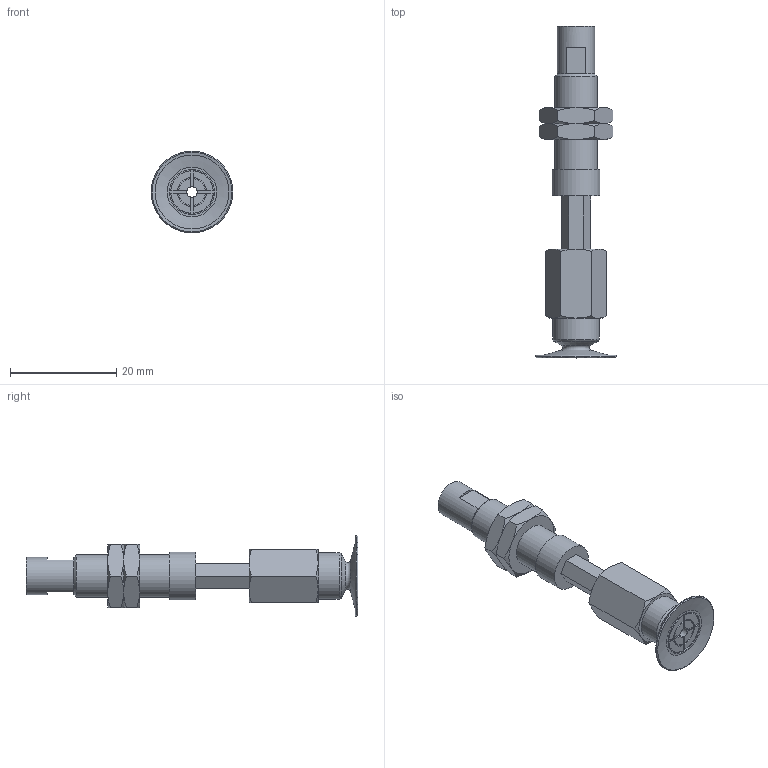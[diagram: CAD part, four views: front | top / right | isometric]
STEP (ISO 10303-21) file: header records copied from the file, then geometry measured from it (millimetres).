
FILE_DESCRIPTION(('STEP AP203'),'1');
FILE_NAME('.stp','2025-08-21T08:02:29',(' '),(' '),'Spatial InterOp 3D',' ',' ');
FILE_SCHEMA(('CONFIG_CONTROL_DESIGN'));
Length unit declared in the file: millimetre
Products named in the file (6): BNABPATH-15B-10-※; ADAPTER; NAPATH-10A-10--M; NAPATH-10A-10--F; Nut-10A-S; BPAG-15B-※
Assembly tree (6 placements, depth 2):
  BNABPATH-15B-10-※
    ADAPTER
    NAPATH-10A-10--M
    NAPATH-10A-10--F
    Nut-10A-S  x2
    BPAG-15B-※
Bounding box: 15.4 x 62.5 x 15.4 mm (x, y, z)
Volume: 3520.6 mm3; surface area: 4353.3 mm2
Topology: 6 solids, 6 shells, 165 faces, 375 edges, 229 vertices
Faces by surface type: plane 73, cone 55, cylinder 27, torus 10
Full cylindrical faces by diameter (mm): 2 x3, 4 x2, 4.134 x1, 6 x2, 7 x1, 7.188 x2, 8 x1, 8.5 x1, 8.7 x1, 9 x1
Entity records: 4264 total; most frequent: CARTESIAN_POINT 988, DIRECTION 618, ORIENTED_EDGE 564, EDGE_CURVE 282, AXIS2_PLACEMENT_3D 250, EDGE_LOOP 192, VERTEX_POINT 190, FACE_OUTER_BOUND 166
